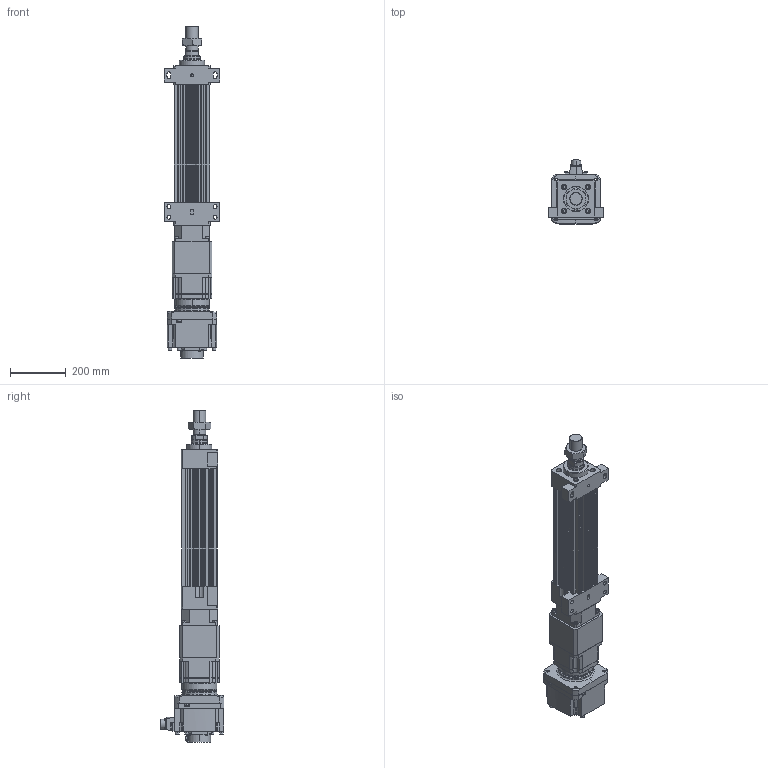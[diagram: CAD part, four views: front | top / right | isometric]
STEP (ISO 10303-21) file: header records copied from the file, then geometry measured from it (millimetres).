
FILE_DESCRIPTION (( 'STEP AP203' ), '1' );
FILE_NAME ('HES130FS(HS)-S200-W020G00-M-FFB.STEP', '2023-01-30T12:25:25', ( 'tms' ), ( '' ), 'SwSTEP 2.0', 'SolidWorks 2013', '' );
FILE_SCHEMA (( 'CONFIG_CONTROL_DESIGN' ));
Length unit declared in the file: millimetre
Products named in the file (9): P0403500801; HES130FS(HS)-S200-W020G00-M-FFB; AB1421; P1301500001; M45X1.5P; HES130-S200-G142-FFB; HES130 ROD M ST200; AB142-003[HG-SR352]; HG-SR202
Assembly tree (8 placements, depth 3):
  HES130FS(HS)-S200-W020G00-M-FFB
    HES130-S200-G142-FFB
    HES130 ROD M ST200
    M45X1.5P
    AB142-003[HG-SR352]
      AB1421
      P1301500001
      P0403500801
    HG-SR202
Bounding box: 200 x 228.85 x 1187.5 mm (x, y, z)
Volume: 10809526 mm3; surface area: 1347000 mm2
Topology: 4 solids, 22 shells, 1518 faces, 3922 edges, 2545 vertices
Faces by surface type: cylinder 676, plane 600, cone 160, bspline 76, torus 6
Entity records: 55270 total; most frequent: CARTESIAN_POINT 16778, DIRECTION 8032, ORIENTED_EDGE 7750, EDGE_CURVE 3897, AXIS2_PLACEMENT_3D 3016, VERTEX_POINT 2545, VECTOR 2000, LINE 2000
